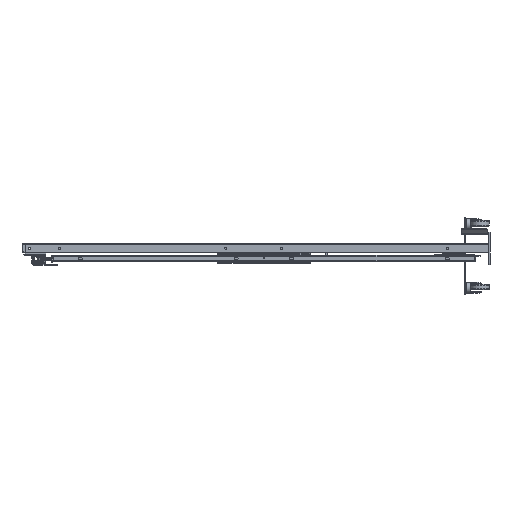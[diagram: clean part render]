
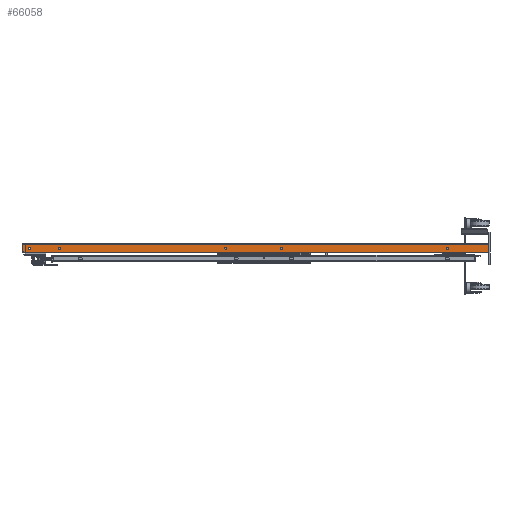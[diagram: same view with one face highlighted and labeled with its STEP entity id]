
A CAD part, left-side view. The second image highlights one B-rep face of the part: STEP entity #66058.
In plain terms, the highlighted planar face has unit normal (-1, 0, 0) as drawn and (0, -1, 0) by its records, which use the part's own axes.
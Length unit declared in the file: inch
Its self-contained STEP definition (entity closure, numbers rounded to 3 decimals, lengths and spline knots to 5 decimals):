
#45 = EDGE_LOOP ( 'NONE', ( #51888, #53657, #77017, #22265 ) ) ;
#990 = DIRECTION ( 'NONE',  ( 0., 0., 1. ) ) ;
#3392 = DIRECTION ( 'NONE',  ( 0., 0., 1. ) ) ;
#4513 = EDGE_LOOP ( 'NONE', ( #47677 ) ) ;
#4518 = CIRCLE ( 'NONE', #53297, 0.25 ) ;
#5033 = FACE_BOUND ( 'NONE', #4513, .T. ) ;
#8025 = EDGE_CURVE ( 'NONE', #12167, #43694, #25583, .T. ) ;
#8088 = LINE ( 'NONE', #20311, #13306 ) ;
#9335 = DIRECTION ( 'NONE',  ( 1., 0., 0. ) ) ;
#11627 = AXIS2_PLACEMENT_3D ( 'NONE', #75886, #43113, #3392 ) ;
#12167 = VERTEX_POINT ( 'NONE', #36688 ) ;
#12450 = PLANE ( 'NONE',  #24911 ) ;
#13306 = VECTOR ( 'NONE', #48217, 39.37008 ) ;
#14433 = AXIS2_PLACEMENT_3D ( 'NONE', #32204, #38728, #65805 ) ;
#17408 = VERTEX_POINT ( 'NONE', #56691 ) ;
#18978 = VECTOR ( 'NONE', #83029, 39.37008 ) ;
#19478 = DIRECTION ( 'NONE',  ( 0., 0., -1. ) ) ;
#19968 = CIRCLE ( 'NONE', #11627, 0.25 ) ;
#20108 = VERTEX_POINT ( 'NONE', #72426 ) ;
#20223 = CARTESIAN_POINT ( 'NONE',  ( 0., -1., 5.5 ) ) ;
#20311 = CARTESIAN_POINT ( 'NONE',  ( -0.8506, -1., 50.5 ) ) ;
#21487 = VERTEX_POINT ( 'NONE', #54241 ) ;
#21503 = EDGE_CURVE ( 'NONE', #57328, #57328, #41884, .T. ) ;
#21815 = VERTEX_POINT ( 'NONE', #66813 ) ;
#22265 = ORIENTED_EDGE ( 'NONE', *, *, #72378, .T. ) ;
#22833 = EDGE_CURVE ( 'NONE', #20108, #12167, #8088, .T. ) ;
#23155 = EDGE_LOOP ( 'NONE', ( #54095 ) ) ;
#24165 = CARTESIAN_POINT ( 'NONE',  ( -0.8506, -1., -50.5 ) ) ;
#24911 = AXIS2_PLACEMENT_3D ( 'NONE', #32090, #72678, #25980 ) ;
#25583 = LINE ( 'NONE', #52204, #30230 ) ;
#25980 = DIRECTION ( 'NONE',  ( 0., 0., 1. ) ) ;
#28511 = EDGE_CURVE ( 'NONE', #21487, #21487, #19968, .T. ) ;
#29839 = LINE ( 'NONE', #24165, #84017 ) ;
#30230 = VECTOR ( 'NONE', #19478, 39.37008 ) ;
#30640 = CARTESIAN_POINT ( 'NONE',  ( -0.8506, -1., 50.5 ) ) ;
#30759 = DIRECTION ( 'NONE',  ( 0., -1., 0. ) ) ;
#32090 = CARTESIAN_POINT ( 'NONE',  ( -0.8506, -1., 50.5 ) ) ;
#32204 = CARTESIAN_POINT ( 'NONE',  ( 0., -1., -6.5 ) ) ;
#32909 = ORIENTED_EDGE ( 'NONE', *, *, #28511, .F. ) ;
#32951 = FACE_BOUND ( 'NONE', #81815, .T. ) ;
#35999 = CARTESIAN_POINT ( 'NONE',  ( 0.8506, -1., -50.5 ) ) ;
#36688 = CARTESIAN_POINT ( 'NONE',  ( 0.8506, -1., 50.5 ) ) ;
#37295 = CARTESIAN_POINT ( 'NONE',  ( 0., -1., -42.5 ) ) ;
#37923 = EDGE_LOOP ( 'NONE', ( #48714 ) ) ;
#38728 = DIRECTION ( 'NONE',  ( 0., -1., 0. ) ) ;
#39830 = DIRECTION ( 'NONE',  ( 0., -1., 0. ) ) ;
#40976 = VERTEX_POINT ( 'NONE', #67677 ) ;
#41884 = CIRCLE ( 'NONE', #53089, 0.25 ) ;
#43113 = DIRECTION ( 'NONE',  ( 0., -1., 0. ) ) ;
#43694 = VERTEX_POINT ( 'NONE', #35999 ) ;
#44723 = FACE_BOUND ( 'NONE', #23155, .T. ) ;
#47677 = ORIENTED_EDGE ( 'NONE', *, *, #54812, .F. ) ;
#48217 = DIRECTION ( 'NONE',  ( 1., 0., 0. ) ) ;
#48714 = ORIENTED_EDGE ( 'NONE', *, *, #21503, .F. ) ;
#50366 = ORIENTED_EDGE ( 'NONE', *, *, #53011, .F. ) ;
#50707 = EDGE_CURVE ( 'NONE', #58556, #43694, #29839, .T. ) ;
#51284 = FACE_BOUND ( 'NONE', #71568, .T. ) ;
#51462 = AXIS2_PLACEMENT_3D ( 'NONE', #20223, #39830, #990 ) ;
#51888 = ORIENTED_EDGE ( 'NONE', *, *, #50707, .T. ) ;
#52204 = CARTESIAN_POINT ( 'NONE',  ( 0.8506, -1., 50.5 ) ) ;
#53011 = EDGE_CURVE ( 'NONE', #21815, #21815, #77974, .T. ) ;
#53089 = AXIS2_PLACEMENT_3D ( 'NONE', #78808, #59589, #64856 ) ;
#53297 = AXIS2_PLACEMENT_3D ( 'NONE', #37295, #30759, #83144 ) ;
#53657 = ORIENTED_EDGE ( 'NONE', *, *, #8025, .F. ) ;
#54095 = ORIENTED_EDGE ( 'NONE', *, *, #58311, .F. ) ;
#54241 = CARTESIAN_POINT ( 'NONE',  ( 0., -1., 41.75 ) ) ;
#54812 = EDGE_CURVE ( 'NONE', #40976, #40976, #4518, .T. ) ;
#56398 = LINE ( 'NONE', #30640, #18978 ) ;
#56691 = CARTESIAN_POINT ( 'NONE',  ( 0., -1., -6.25 ) ) ;
#57328 = VERTEX_POINT ( 'NONE', #83953 ) ;
#58311 = EDGE_CURVE ( 'NONE', #17408, #17408, #73005, .T. ) ;
#58556 = VERTEX_POINT ( 'NONE', #69659 ) ;
#59127 = FACE_BOUND ( 'NONE', #37923, .T. ) ;
#59589 = DIRECTION ( 'NONE',  ( 0., -1., 0. ) ) ;
#64856 = DIRECTION ( 'NONE',  ( 0., 0., 1. ) ) ;
#65805 = DIRECTION ( 'NONE',  ( 0., 0., 1. ) ) ;
#66058 = ADVANCED_FACE ( 'NONE', ( #59127, #32951, #51284, #44723, #5033, #72259 ), #12450, .F. ) ;
#66813 = CARTESIAN_POINT ( 'NONE',  ( 0., -1., 5.75 ) ) ;
#67677 = CARTESIAN_POINT ( 'NONE',  ( 0., -1., -42.25 ) ) ;
#69659 = CARTESIAN_POINT ( 'NONE',  ( -0.8506, -1., -50.5 ) ) ;
#71568 = EDGE_LOOP ( 'NONE', ( #50366 ) ) ;
#72259 = FACE_OUTER_BOUND ( 'NONE', #45, .T. ) ;
#72378 = EDGE_CURVE ( 'NONE', #20108, #58556, #56398, .T. ) ;
#72426 = CARTESIAN_POINT ( 'NONE',  ( -0.8506, -1., 50.5 ) ) ;
#72678 = DIRECTION ( 'NONE',  ( 0., 1., 0. ) ) ;
#73005 = CIRCLE ( 'NONE', #14433, 0.25 ) ;
#75886 = CARTESIAN_POINT ( 'NONE',  ( 0., -1., 41.5 ) ) ;
#77017 = ORIENTED_EDGE ( 'NONE', *, *, #22833, .F. ) ;
#77974 = CIRCLE ( 'NONE', #51462, 0.25 ) ;
#78808 = CARTESIAN_POINT ( 'NONE',  ( 0., -1., -49. ) ) ;
#81815 = EDGE_LOOP ( 'NONE', ( #32909 ) ) ;
#83029 = DIRECTION ( 'NONE',  ( 0., 0., -1. ) ) ;
#83144 = DIRECTION ( 'NONE',  ( 0., 0., 1. ) ) ;
#83953 = CARTESIAN_POINT ( 'NONE',  ( 0., -1., -48.75 ) ) ;
#84017 = VECTOR ( 'NONE', #9335, 39.37008 ) ;
